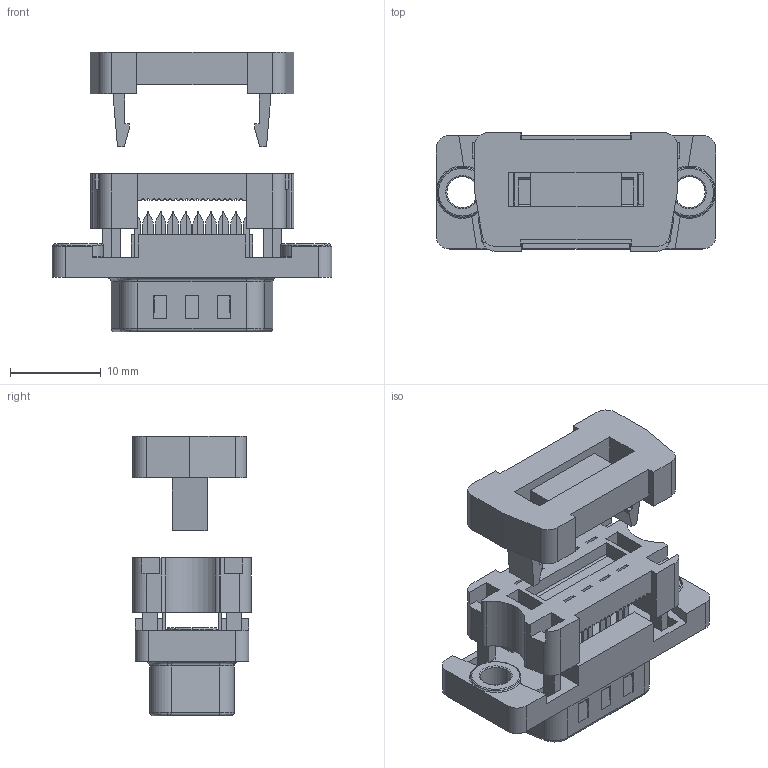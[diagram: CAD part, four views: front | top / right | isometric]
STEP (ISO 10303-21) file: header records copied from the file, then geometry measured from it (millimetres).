
FILE_DESCRIPTION (( 'STEP AP214' ), '1' );
FILE_NAME ('cni09m-x-h-x.step', '2024-02-06T14:29:05', ( '' ), ( '' ), 'SwSTEP 2.0', 'SolidWorks 2018', '' );
FILE_SCHEMA (( 'AUTOMOTIVE_DESIGN' ));
Length unit declared in the file: inch
Products named in the file (1): cni09m-x-h-x
Bounding box: 30.8 x 13 x 30.8 mm (x, y, z)
Volume: 2986.6 mm3; surface area: 4771.6 mm2
Topology: 25 solids, 25 shells, 741 faces, 1981 edges, 1253 vertices
Faces by surface type: plane 422, cylinder 230, bspline 39, sphere 36, torus 14
Entity records: 33313 total; most frequent: CARTESIAN_POINT 5590, ORIENTED_EDGE 3810, DIRECTION 3720, EDGE_CURVE 1905, VECTOR 1316, LINE 1316, VERTEX_POINT 1225, AXIS2_PLACEMENT_3D 1202
